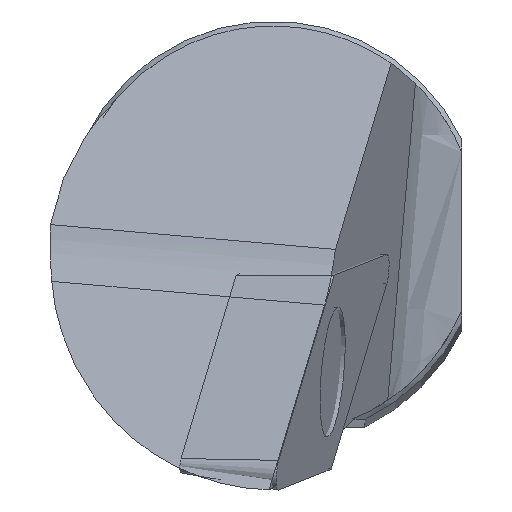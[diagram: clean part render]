
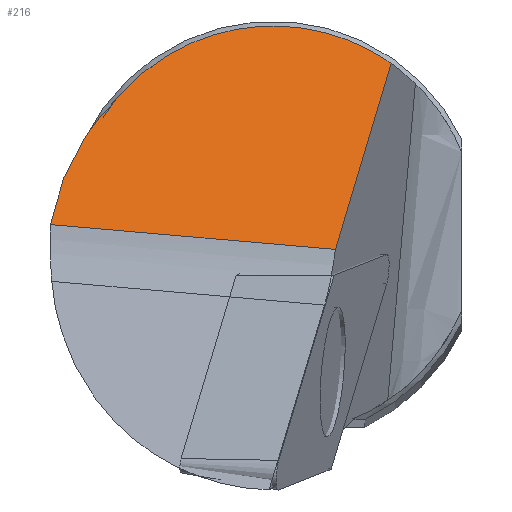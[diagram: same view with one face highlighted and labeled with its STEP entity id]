
A CAD part, top view. The second image highlights one B-rep face of the part: STEP entity #216.
In plain terms, the highlighted planar face has unit normal (-0.044, 0.773, 0.633).
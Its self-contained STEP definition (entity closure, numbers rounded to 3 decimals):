
#109=PLANE('',#660);
#124=ELLIPSE('',#642,17.367,10.87);
#126=ELLIPSE('',#648,15.401,9.75);
#149=LINE('',#998,#183);
#150=LINE('',#1000,#184);
#183=VECTOR('',#769,1.);
#184=VECTOR('',#772,1.);
#216=ADVANCED_FACE('',(#256),#109,.F.);
#256=FACE_OUTER_BOUND('',#284,.T.);
#284=EDGE_LOOP('',(#392,#393,#394,#395));
#392=ORIENTED_EDGE('',*,*,#578,.T.);
#393=ORIENTED_EDGE('',*,*,#577,.T.);
#394=ORIENTED_EDGE('',*,*,#558,.F.);
#395=ORIENTED_EDGE('',*,*,#549,.F.);
#494=VERTEX_POINT('',#914);
#495=VERTEX_POINT('',#916);
#502=VERTEX_POINT('',#938);
#510=VERTEX_POINT('',#996);
#549=EDGE_CURVE('',#494,#495,#124,.T.);
#558=EDGE_CURVE('',#495,#502,#126,.T.);
#577=EDGE_CURVE('',#510,#502,#149,.T.);
#578=EDGE_CURVE('',#494,#510,#150,.T.);
#642=AXIS2_PLACEMENT_3D('',#915,#723,#724);
#648=AXIS2_PLACEMENT_3D('',#937,#738,#739);
#660=AXIS2_PLACEMENT_3D('',#1001,#773,#774);
#723=DIRECTION('',(0.044,-0.773,-0.633));
#724=DIRECTION('',(0.036,-0.632,0.774));
#738=DIRECTION('',(0.044,-0.773,-0.633));
#739=DIRECTION('',(0.036,-0.632,0.774));
#769=DIRECTION('',(0.188,0.629,-0.754));
#772=DIRECTION('',(0.981,-0.086,0.173));
#773=DIRECTION('',(0.044,-0.773,-0.633));
#774=DIRECTION('',(0.,0.634,-0.774));
#914=CARTESIAN_POINT('',(-10.613,0.265,-13.709));
#915=CARTESIAN_POINT('',(0.094,-1.648,-10.63));
#916=CARTESIAN_POINT('',(-7.505,6.224,-20.768));
#937=CARTESIAN_POINT('',(0.,0.,-12.648));
#938=CARTESIAN_POINT('',(5.626,7.963,-21.978));
#996=CARTESIAN_POINT('',(2.968,-0.924,-11.314));
#998=CARTESIAN_POINT('',(2.968,-0.924,-11.314));
#1000=CARTESIAN_POINT('',(-53.14,3.985,-21.208));
#1001=CARTESIAN_POINT('',(-53.14,3.985,-21.208));
